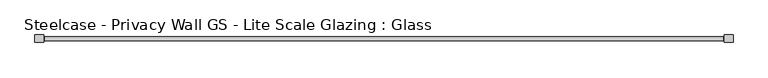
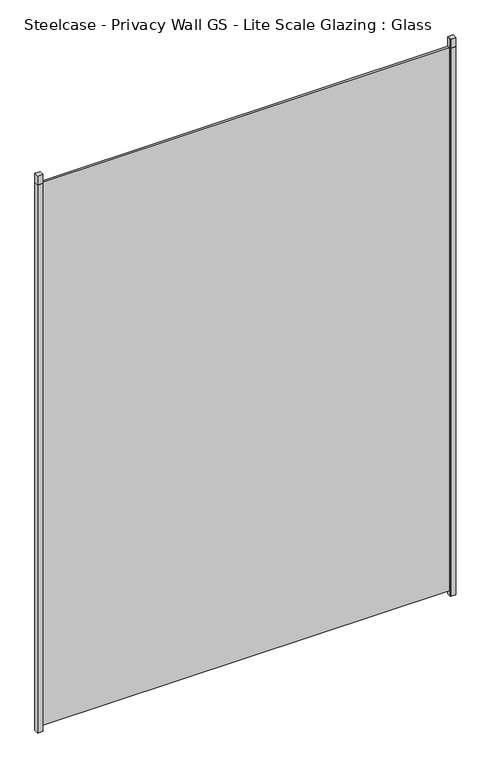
"""IFC4 building model written with IfcOpenShell, lengths in millimetres: plate geometry, Steelcase - Privacy Wall GS - Lite Scale Glazing : Glass."""

from ifc_helpers import new_model, si_unit, frame, origin, origin_with_axes, place, context, project, spatial, polyline, outline, extrude, source, transform, mapped, element, save


def steelcase_privacy_wall_gs_lite_scale_glazing_glass_f0b9d819(model_context):
    return source(origin(), model_context, "Body", "SweptSolid", [
        extrude(outline(polyline([(1055.128729, 11.7474777), (1082.1161957, 11.7474777), (1082.1161957, -11.7475002), (1055.128729, -11.7475002), (1055.128729, 11.7474777)])), frame((0.0, 0.0, 2970.784), z_axis=(0.0, 0.0, 1.0), x_axis=(1.0, 0.0, 0.0)), (0.0, 0.0, 1.0), 49.276),
        extrude(outline(polyline([(1082.1161957, 11.7474777), (1082.1161957, -11.7475002), (1055.128729, -11.7475002), (1055.128729, -6.3896792), (1077.6239708, -6.3896792), (1077.6239708, 6.3500051), (1055.128729, 6.3500051), (1055.128729, 11.7474777), (1082.1161957, 11.7474777)])), frame((0.0, 0.0, -27.8638004), z_axis=(0.0, 0.0, 1.0), x_axis=(1.0, 0.0, 0.0)), (0.0, 0.0, 1.0), 2998.6478004),
        extrude(outline(polyline([(1055.128729, 11.7474777), (1055.128729, -11.7474954), (1054.1, -11.7474954), (1054.1, 11.7474777), (1055.128729, 11.7474777)])), frame((0.0, 0.0, -27.8638004), z_axis=(0.0, 0.0, 1.0), x_axis=(1.0, 0.0, 0.0)), (0.0, 0.0, 1.0), 3047.9238004),
        extrude(outline(polyline([(-1055.128729, 11.7474777), (-1055.128729, -11.7475002), (-1082.1161957, -11.7475002), (-1082.1161957, 11.7474777), (-1055.128729, 11.7474777)])), frame((0.0, 0.0, 2970.784), z_axis=(0.0, 0.0, 1.0), x_axis=(1.0, 0.0, 0.0)), (0.0, 0.0, 1.0), 49.276),
        extrude(outline(polyline([(-1082.1161957, 11.7474777), (-1055.128729, 11.7474777), (-1055.128729, 6.3500051), (-1077.6239708, 6.3500051), (-1077.6239708, -6.3896792), (-1055.128729, -6.3896792), (-1055.128729, -11.7475002), (-1082.1161957, -11.7475002), (-1082.1161957, 11.7474777)])), frame((0.0, 0.0, -27.8638004), z_axis=(0.0, 0.0, 1.0), x_axis=(1.0, 0.0, 0.0)), (0.0, 0.0, 1.0), 2998.6478004),
        extrude(outline(polyline([(-1055.128729, 11.7474777), (-1054.1, 11.7474777), (-1054.1, -11.7474954), (-1055.128729, -11.7474954), (-1055.128729, 11.7474777)])), frame((0.0, 0.0, -27.8638004), z_axis=(0.0, 0.0, 1.0), x_axis=(1.0, 0.0, 0.0)), (0.0, 0.0, 1.0), 3047.9238004),
        extrude(outline(polyline([(-1052.068, -6.349956), (-1052.068, 6.3502015), (1052.068, 6.3502015), (1052.068, -6.349956), (-1052.068, -6.349956)])), origin_with_axes(), (0.0, 0.0, 1.0), 2970.784),
    ])


if __name__ == "__main__":
    model = new_model("IFC4")
    model_context = context("Model", 3, world=origin())
    ifc_project = project(units=[si_unit("LENGTHUNIT", "METRE", prefix="MILLI")], contexts=[model_context])
    site = spatial("IfcSite", under=ifc_project)
    building = spatial("IfcBuilding", under=site)
    placement = place(None, origin())
    steelcase_privacy_wall_gs_lite_scale_glazing_glass_shape = steelcase_privacy_wall_gs_lite_scale_glazing_glass_f0b9d819(model_context)
    element("IfcPlate", 1, ObjectType="Steelcase - Privacy Wall GS - Lite Scale Glazing : Glass", at=placement, inside=building, context=model_context, shape_type="MappedRepresentation", body=[
        mapped(steelcase_privacy_wall_gs_lite_scale_glazing_glass_shape, transform((0.0, 0.0, 0.0), x_axis=(1.0, 0.0, 0.0), y_axis=(0.0, 1.0, 0.0), z_axis=(0.0, 0.0, 1.0))),
    ])
    save(model, "model.ifc")
